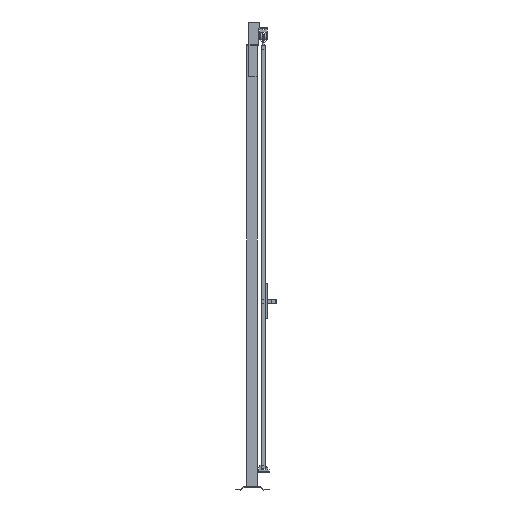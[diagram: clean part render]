
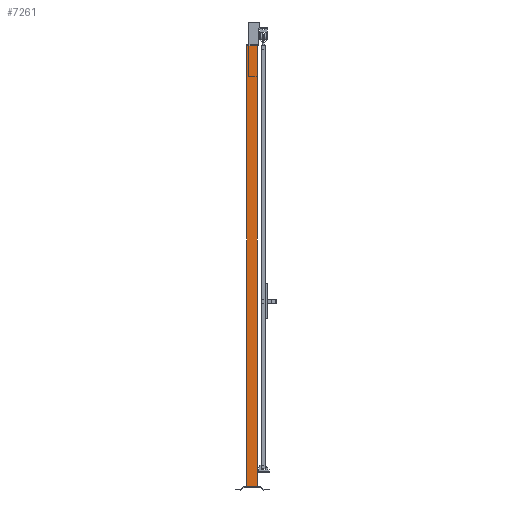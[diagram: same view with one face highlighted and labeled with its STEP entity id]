
A CAD part, left-side view. The second image highlights one B-rep face of the part: STEP entity #7261.
In plain terms, the highlighted planar face has unit normal (-1, 0, 0).
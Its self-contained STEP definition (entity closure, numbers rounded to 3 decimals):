
#623=FACE_OUTER_BOUND('',#1133,.T.);
#1133=EDGE_LOOP('',(#4284,#4285,#4286,#4287));
#1682=VERTEX_POINT('',#14536);
#1683=VERTEX_POINT('',#14538);
#1686=VERTEX_POINT('',#14545);
#1687=VERTEX_POINT('',#14547);
#2750=EDGE_CURVE('',#1682,#1683,#8238,.T.);
#2754=EDGE_CURVE('',#1686,#1687,#8242,.T.);
#2756=EDGE_CURVE('',#1683,#1686,#8244,.T.);
#2758=EDGE_CURVE('',#1682,#1687,#8246,.T.);
#4284=ORIENTED_EDGE('',*,*,#2758,.T.);
#4285=ORIENTED_EDGE('',*,*,#2754,.F.);
#4286=ORIENTED_EDGE('',*,*,#2756,.F.);
#4287=ORIENTED_EDGE('',*,*,#2750,.F.);
#6803=PLANE('',#10700);
#7261=ADVANCED_FACE('',(#623),#6803,.F.);
#8238=LINE('',#14539,#9526);
#8242=LINE('',#14548,#9530);
#8244=LINE('',#14551,#9532);
#8246=LINE('',#14554,#9534);
#9526=VECTOR('',#11625,1.);
#9530=VECTOR('',#11631,1.);
#9532=VECTOR('',#11635,1.);
#9534=VECTOR('',#11639,1.);
#10700=AXIS2_PLACEMENT_3D('',#14553,#11637,#11638);
#11625=DIRECTION('',(0.,-1.,0.));
#11631=DIRECTION('',(0.,1.,0.));
#11635=DIRECTION('',(0.,0.,-1.));
#11637=DIRECTION('center_axis',(1.,0.,0.));
#11638=DIRECTION('ref_axis',(0.,0.,-1.));
#11639=DIRECTION('',(0.,0.,-1.));
#14536=CARTESIAN_POINT('',(-30.,30.,2520.));
#14538=CARTESIAN_POINT('',(-30.,-30.,2520.));
#14539=CARTESIAN_POINT('',(-30.,0.,2520.));
#14545=CARTESIAN_POINT('',(-30.,-30.,20.));
#14547=CARTESIAN_POINT('',(-30.,30.,20.));
#14548=CARTESIAN_POINT('',(-30.,0.,20.));
#14551=CARTESIAN_POINT('',(-30.,-30.,1270.));
#14553=CARTESIAN_POINT('Origin',(-30.,0.,
1270.));
#14554=CARTESIAN_POINT('',(-30.,30.,1270.));
